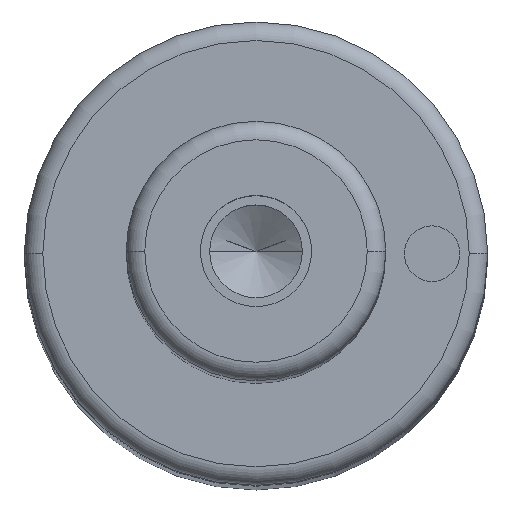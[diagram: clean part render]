
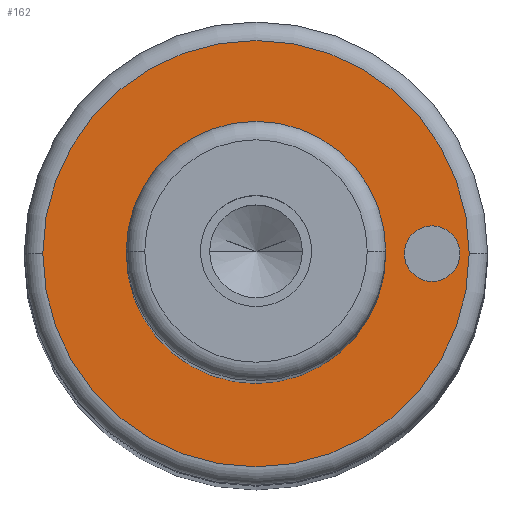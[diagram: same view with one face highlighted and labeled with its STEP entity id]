
A CAD part, top view. The second image highlights one B-rep face of the part: STEP entity #162.
In plain terms, the highlighted planar face has unit normal (0, 0, 1).
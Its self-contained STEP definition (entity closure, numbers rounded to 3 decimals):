
#105=PLANE('',#660);
#113=FACE_BOUND('',#237,.T.);
#114=FACE_BOUND('',#238,.T.);
#115=FACE_BOUND('',#239,.T.);
#162=ADVANCED_FACE('',(#113,#114,#115),#105,.T.);
#237=EDGE_LOOP('',(#393,#394));
#238=EDGE_LOOP('',(#395,#396));
#239=EDGE_LOOP('',(#397,#398));
#269=CIRCLE('',#628,7.);
#270=CIRCLE('',#630,7.);
#274=CIRCLE('',#635,11.5);
#275=CIRCLE('',#637,11.5);
#287=CIRCLE('',#658,1.5);
#288=CIRCLE('',#659,1.5);
#393=ORIENTED_EDGE('',*,*,#512,.F.);
#394=ORIENTED_EDGE('',*,*,#513,.F.);
#395=ORIENTED_EDGE('',*,*,#531,.F.);
#396=ORIENTED_EDGE('',*,*,#532,.F.);
#397=ORIENTED_EDGE('',*,*,#508,.T.);
#398=ORIENTED_EDGE('',*,*,#506,.T.);
#454=VERTEX_POINT('',#925);
#455=VERTEX_POINT('',#927);
#456=VERTEX_POINT('',#933);
#459=VERTEX_POINT('',#938);
#468=VERTEX_POINT('',#977);
#469=VERTEX_POINT('',#978);
#506=EDGE_CURVE('',#455,#454,#269,.T.);
#508=EDGE_CURVE('',#454,#455,#270,.T.);
#512=EDGE_CURVE('',#459,#456,#274,.T.);
#513=EDGE_CURVE('',#456,#459,#275,.T.);
#531=EDGE_CURVE('',#468,#469,#287,.T.);
#532=EDGE_CURVE('',#469,#468,#288,.T.);
#628=AXIS2_PLACEMENT_3D('',#926,#749,#750);
#630=AXIS2_PLACEMENT_3D('',#930,#754,#755);
#635=AXIS2_PLACEMENT_3D('',#939,#764,#765);
#637=AXIS2_PLACEMENT_3D('',#941,#768,#769);
#658=AXIS2_PLACEMENT_3D('',#976,#816,#817);
#659=AXIS2_PLACEMENT_3D('',#979,#818,#819);
#660=AXIS2_PLACEMENT_3D('',#980,#820,#821);
#749=DIRECTION('',(0.,0.,-1.));
#750=DIRECTION('',(0.,1.,0.));
#754=DIRECTION('',(0.,0.,-1.));
#755=DIRECTION('',(0.,-1.,0.));
#764=DIRECTION('',(0.,0.,-1.));
#765=DIRECTION('',(0.,1.,0.));
#768=DIRECTION('',(0.,0.,-1.));
#769=DIRECTION('',(0.,-1.,0.));
#816=DIRECTION('',(0.,0.,1.));
#817=DIRECTION('',(0.,1.,0.));
#818=DIRECTION('',(0.,0.,1.));
#819=DIRECTION('',(0.,-1.,0.));
#820=DIRECTION('',(0.,0.,1.));
#821=DIRECTION('',(0.,-1.,0.));
#925=CARTESIAN_POINT('',(-7.,0.,143.));
#926=CARTESIAN_POINT('',(0.,0.,143.));
#927=CARTESIAN_POINT('',(7.,0.,143.));
#930=CARTESIAN_POINT('',(0.,0.,143.));
#933=CARTESIAN_POINT('',(-11.5,0.,143.));
#938=CARTESIAN_POINT('',(11.5,0.,143.));
#939=CARTESIAN_POINT('',(0.,0.,143.));
#941=CARTESIAN_POINT('',(0.,0.,143.));
#976=CARTESIAN_POINT('',(9.5,0.,143.));
#977=CARTESIAN_POINT('',(8.,0.,143.));
#978=CARTESIAN_POINT('',(11.,0.,143.));
#979=CARTESIAN_POINT('',(9.5,0.,143.));
#980=CARTESIAN_POINT('',(0.,0.,143.));
